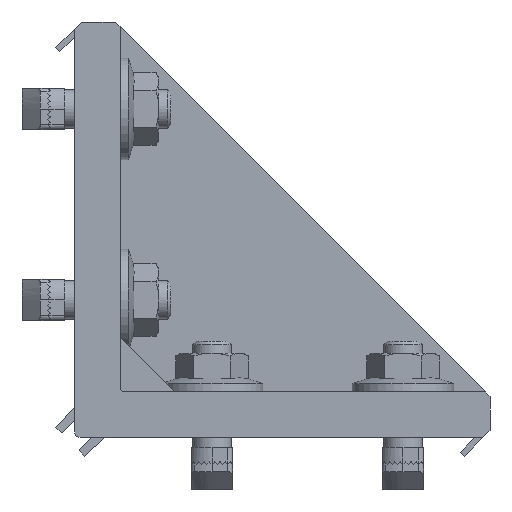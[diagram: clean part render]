
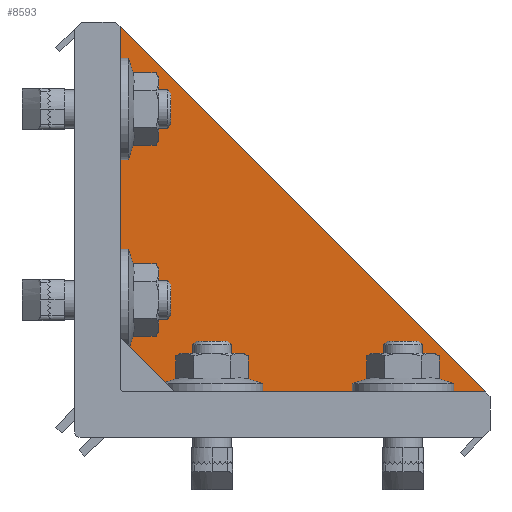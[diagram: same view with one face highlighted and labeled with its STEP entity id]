
A CAD part, front view. The second image highlights one B-rep face of the part: STEP entity #8593.
In plain terms, the highlighted planar face has unit normal (0, -1, 0).
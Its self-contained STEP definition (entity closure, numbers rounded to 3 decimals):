
#192 = LINE ( 'NONE', #9441, #7371 ) ;
#747 = AXIS2_PLACEMENT_3D ( 'NONE', #11801, #3550, #17099 ) ;
#926 = VERTEX_POINT ( 'NONE', #2412 ) ;
#1116 = LINE ( 'NONE', #11847, #13170 ) ;
#1168 = DIRECTION ( 'NONE',  ( 0., 0., -1. ) ) ;
#1527 = VERTEX_POINT ( 'NONE', #9489 ) ;
#1564 = CARTESIAN_POINT ( 'NONE',  ( -31.591, 56.591, 10.5 ) ) ;
#2179 = PLANE ( 'NONE',  #3534 ) ;
#2412 = CARTESIAN_POINT ( 'NONE',  ( -31.591, 56.591, 85. ) ) ;
#2458 = LINE ( 'NONE', #15907, #7555 ) ;
#2529 = CARTESIAN_POINT ( 'NONE',  ( -30.591, 56.591, 10.5 ) ) ;
#3534 = AXIS2_PLACEMENT_3D ( 'NONE', #2529, #5078, #3759 ) ;
#3550 = DIRECTION ( 'NONE',  ( 0., -1., 0. ) ) ;
#3602 = ORIENTED_EDGE ( 'NONE', *, *, #10317, .T. ) ;
#3759 = DIRECTION ( 'NONE',  ( 0., 0., -1. ) ) ;
#3864 = DIRECTION ( 'NONE',  ( -0.707, 0., 0.707 ) ) ;
#5078 = DIRECTION ( 'NONE',  ( 0., -1., 0. ) ) ;
#5168 = VERTEX_POINT ( 'NONE', #1564 ) ;
#5331 = EDGE_CURVE ( 'NONE', #926, #5168, #192, .T. ) ;
#6308 = FACE_OUTER_BOUND ( 'NONE', #15859, .T. ) ;
#7371 = VECTOR ( 'NONE', #1168, 1000. ) ;
#7555 = VECTOR ( 'NONE', #13174, 1000. ) ;
#8034 = ORIENTED_EDGE ( 'NONE', *, *, #9258, .T. ) ;
#8541 = ORIENTED_EDGE ( 'NONE', *, *, #10324, .T. ) ;
#8593 = ADVANCED_FACE ( 'NONE', ( #6308 ), #2179, .T. ) ;
#9258 = EDGE_CURVE ( 'NONE', #5168, #1527, #11142, .T. ) ;
#9441 = CARTESIAN_POINT ( 'NONE',  ( -31.591, 56.591, 86. ) ) ;
#9489 = CARTESIAN_POINT ( 'NONE',  ( -30.591, 56.591, 9.5 ) ) ;
#10317 = EDGE_CURVE ( 'NONE', #1527, #15762, #2458, .T. ) ;
#10324 = EDGE_CURVE ( 'NONE', #15762, #926, #1116, .T. ) ;
#11100 = ORIENTED_EDGE ( 'NONE', *, *, #5331, .T. ) ;
#11142 = CIRCLE ( 'NONE', #747, 1. ) ;
#11801 = CARTESIAN_POINT ( 'NONE',  ( -30.591, 56.591, 10.5 ) ) ;
#11847 = CARTESIAN_POINT ( 'NONE',  ( 44.909, 56.591, 8.5 ) ) ;
#13170 = VECTOR ( 'NONE', #3864, 1000. ) ;
#13174 = DIRECTION ( 'NONE',  ( 1., 0., 0. ) ) ;
#15762 = VERTEX_POINT ( 'NONE', #16016 ) ;
#15859 = EDGE_LOOP ( 'NONE', ( #8034, #3602, #8541, #11100 ) ) ;
#15907 = CARTESIAN_POINT ( 'NONE',  ( -30.591, 56.591, 9.5 ) ) ;
#16016 = CARTESIAN_POINT ( 'NONE',  ( 43.909, 56.591, 9.5 ) ) ;
#17099 = DIRECTION ( 'NONE',  ( 0., 0., -1. ) ) ;
